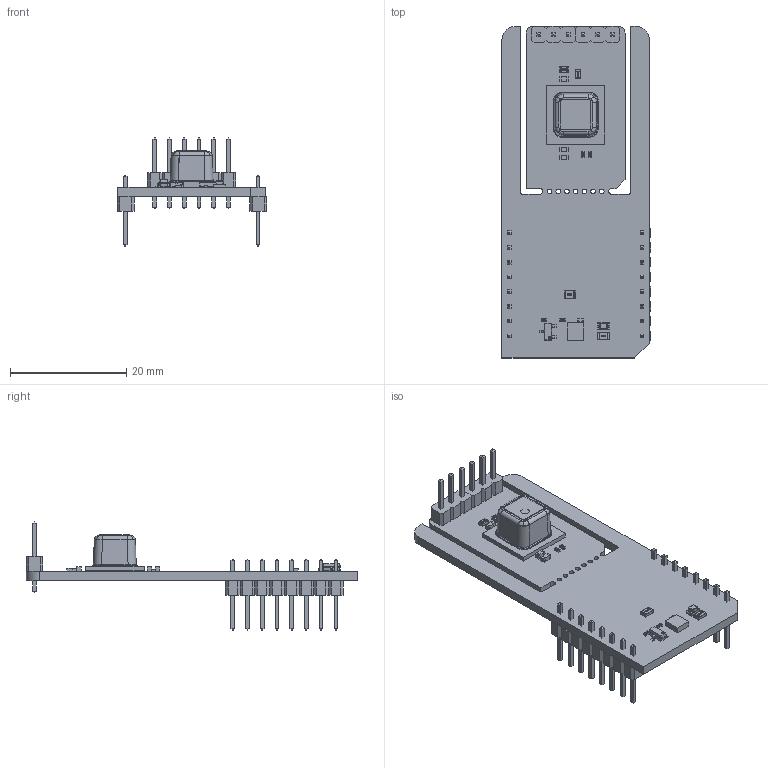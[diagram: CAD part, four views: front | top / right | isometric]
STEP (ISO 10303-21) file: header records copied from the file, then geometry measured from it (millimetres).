
FILE_DESCRIPTION(('Open CASCADE Model'),'2;1');
FILE_NAME('Open CASCADE Shape Model','2026-03-11T14:23:40',('Author'),( 'Open CASCADE'),'Open CASCADE STEP processor 7.5','Open CASCADE 7.5' ,'Unknown');
FILE_SCHEMA(('AUTOMOTIVE_DESIGN { 1 0 10303 214 1 1 1 1 }'));
Length unit declared in the file: millimetre
Products named in the file (65): PCB; Board; Open CASCADE STEP translator 7.5 1.1.1; JP1; User Library-R_0805; MBD1; Header 1x8; Free-Models; 1240637040; User_Library-PinHeaderX5-1_PinHeaderX5_Body_1; User_Library-PinHeaderX5-1_PinHeaderX5_Pins_1; R1; LD1; led_0805_green; R2; User Library-R_0402; C1; User Library-SMD CAPACITOR0402; R4; User Library-R_0603; Q1; SOT23-3; U1; 7462590688; Extruded; C2; User Library-SMD CAPACITOR0603; C3; C4; J1; User Library-Pin Header Strip 1x3; R3; R5; R6; R7; U2; CD_AN_SCD40_STEP_file_C_D2
Assembly tree (74 placements, depth 7):
  PCB
    Board
      Open CASCADE STEP translator 7.5 1.1.1
    JP1
      User Library-R_0805
    MBD1
      Header 1x8  x2
        PCB
          Free-Models
            1240637040  x2
              User_Library-PinHeaderX5-1_PinHeaderX5_Body_1
              User_Library-PinHeaderX5-1_PinHeaderX5_Pins_1
    R1
      User Library-R_0805
    LD1
      led_0805_green
    R2
      User Library-R_0402
    C1
      User Library-SMD CAPACITOR0402
    R4
      User Library-R_0603
    Q1
      SOT23-3
    U1
      7462590688
        Extruded
    C2
      User Library-SMD CAPACITOR0603
    C3
      User Library-SMD CAPACITOR0603
    C4
      User Library-SMD CAPACITOR0603
    J1
      User Library-Pin Header Strip 1x3  x2
    R3
      User Library-R_0402
    R5
      User Library-R_0402
    R6
      User Library-R_0402
    R7
      User Library-R_0603
    U2
      CD_AN_SCD40_STEP_file_C_D2
      CD_AN_SCD40_STEP_file_C_D2
      CD_AN_SCD40_STEP_file_C_D2
      CD_AN_SCD40_STEP_file_C_D2
      CD_AN_SCD40_STEP_file_C_D2
      CD_AN_SCD40_STEP_file_C_D2
      CD_AN_SCD40_STEP_file_C_D2
      CD_AN_SCD40_STEP_file_C_D2
      CD_AN_SCD40_STEP_file_C_D2
      CD_AN_SCD40_STEP_file_C_D2
      CD_AN_SCD40_STEP_file_C_D2
      CD_AN_SCD40_STEP_file_C_D2
      CD_AN_SCD40_STEP_file_C_D2
      CD_AN_SCD40_STEP_file_C_D2
      CD_AN_SCD40_STEP_file_C_D2
      CD_AN_SCD40_STEP_file_C_D2
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Bounding box: 25.78 x 57.21 x 18.62 mm (x, y, z)
Volume: 2919.1 mm3; surface area: 5810.9 mm2
Topology: 78 solids, 78 shells, 1905 faces, 4666 edges, 2964 vertices
Faces by surface type: plane 1423, bspline 302, cylinder 142, sphere 38
Full cylindrical faces by diameter (mm): 0.8 x7
Entity records: 38966 total; most frequent: CARTESIAN_POINT 12509, ORIENTED_EDGE 4514, DIRECTION 3970, EDGE_CURVE 2257, LINE 1764, VECTOR 1764, VERTEX_POINT 1446, AXIS2_PLACEMENT_3D 1103
